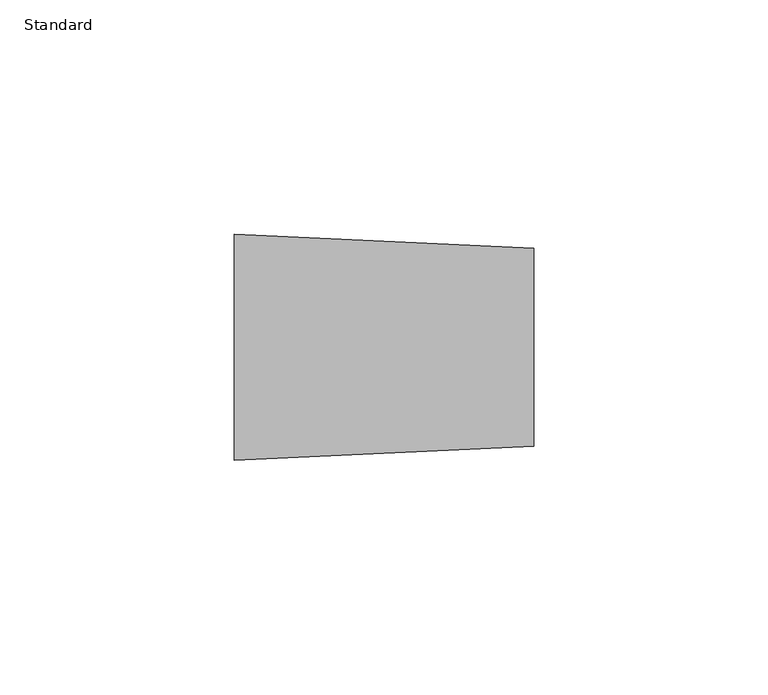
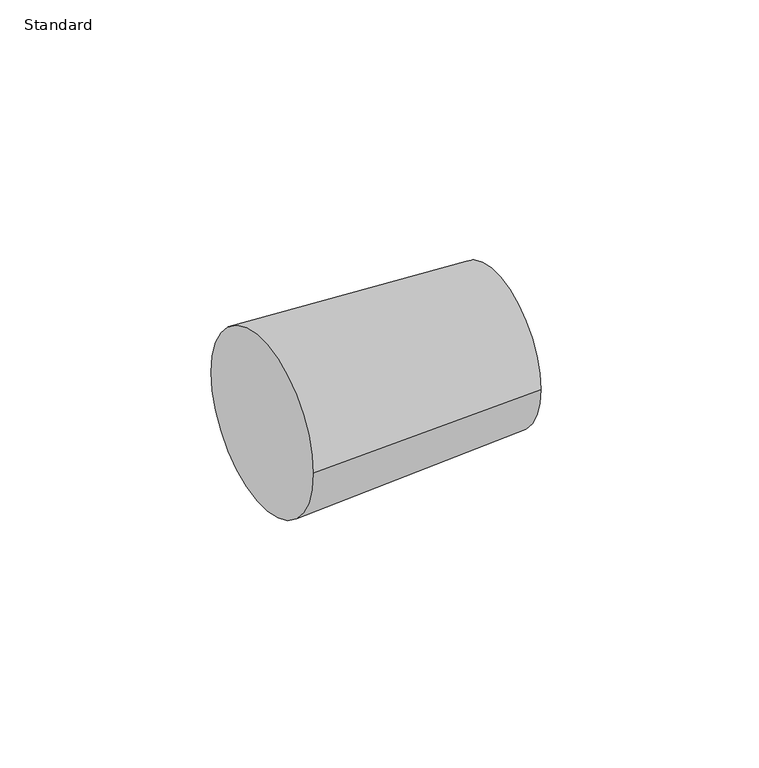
"""IFC4 building model written with IfcOpenShell, lengths in millimetres: pipe fitting geometry, Transformation - Générique : Standard."""

from ifc_helpers import new_model, si_unit, frame, origin, place, context, project, spatial, polyline, circle_curve, source, transform, mapped, element, save
from ifc_brep_helpers import plane_surface, revolved_surface, advanced_brep


def standard_ce8bb220(model_context):
    return source(origin(), model_context, "Body", "AdvancedBrep", [
        advanced_brep(
        [(64.0, -21.1, 0.0), (64.0, 21.1, 0.0), (0.0, -24.15, 0.0), (0.0, 24.15, 0.0)],
        [
            (0, 1, circle_curve(frame((64.0, 0.0, 0.0), z_axis=(1.0, 0.0, 0.0), x_axis=(0.0, -1.0, 0.0)), 21.1)),
            (1, 0, circle_curve(frame((64.0, 0.0, 0.0), z_axis=(1.0, 0.0, 0.0), x_axis=(0.0, 1.0, 0.0)), 21.1)),
            (2, 3, circle_curve(frame((0.0, 0.0, 0.0), z_axis=(-1.0, 0.0, 0.0), x_axis=(0.0, 1.0, 0.0)), 24.15)),
            (3, 2, circle_curve(frame((0.0, 0.0, 0.0), z_axis=(-1.0, 0.0, 0.0), x_axis=(0.0, -1.0, 0.0)), 24.15)),
            (3, 1),
            (0, 2),
        ],
        [
            plane_surface(frame((64.0, 0.0, 0.0), z_axis=(1.0, 0.0, 0.0), x_axis=(0.0, 0.0, -1.0))),
            plane_surface(frame((0.0, 0.0, 0.0), z_axis=(-1.0, 0.0, 0.0), x_axis=(0.0, 0.0, -1.0))),
            revolved_surface(polyline([(64.0, -21.1000000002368, 0.0), (0.0, -24.15, 0.0)]), (506.7540984, 0.0, 0.0), (-1.0, 0.0, 0.0)),
            revolved_surface(polyline([(64.0, 21.1000000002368, 0.0), (0.0, 24.15, 0.0)]), (506.7540984, 0.0, 0.0), (-1.0, 0.0, 0.0)),
        ],
        [
            (0, [[1, 2]]),
            (1, [[3, 4]]),
            (2, [[-4, 5, -1, 6]]),
            (3, [[-3, -6, -2, -5]]),
        ],
    ),
    ])


if __name__ == "__main__":
    model = new_model("IFC4")
    model_context = context("Model", 3, world=origin())
    ifc_project = project(units=[si_unit("LENGTHUNIT", "METRE", prefix="MILLI")], contexts=[model_context])
    site = spatial("IfcSite", under=ifc_project)
    building = spatial("IfcBuilding", under=site)
    placement = place(None, origin())
    standard_shape = standard_ce8bb220(model_context)
    element("IfcPipeFitting", 1, ObjectType="Transformation - Générique : Standard", at=placement, inside=building, context=model_context, shape_type="MappedRepresentation", body=[
        mapped(standard_shape, transform((0.0, 0.0, 0.0), x_axis=(1.0, 0.0, 0.0), y_axis=(0.0, 1.0, 0.0), z_axis=(0.0, 0.0, 1.0))),
    ])
    save(model, "model.ifc")
